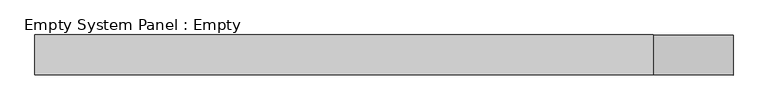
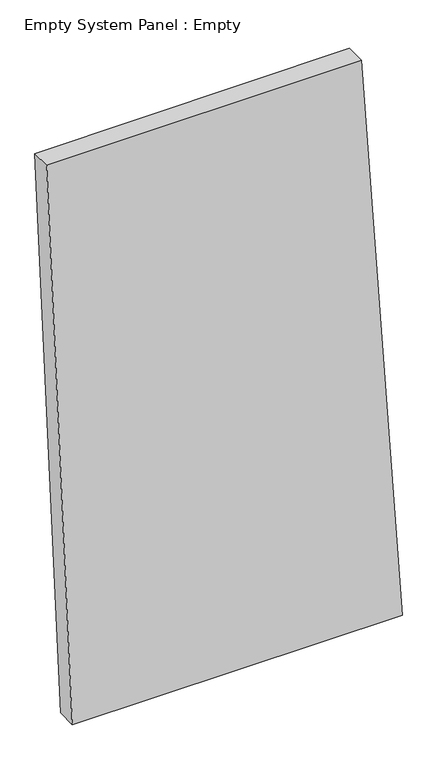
"""IFC4 building model written with IfcOpenShell, lengths in millimetres: plate geometry, Empty System Panel : Empty."""

from ifc_helpers import new_model, si_unit, frame, origin, place, context, project, spatial, polyline, outline, extrude, source, transform, mapped, element, save


def empty_system_panel_empty_8a625962(model_context):
    return source(origin(), model_context, "Body", "SweptSolid", [
        extrude(outline(polyline([(0.0, -759.7564112), (0.0, 887.5763516), (2999.0064892, 684.2158251), (2994.3040158, -887.5763516), (0.0, -759.7564112)])), frame((0.0, -50.8, 0.0), z_axis=(0.0, 1.0, 0.0), x_axis=(0.0, 0.0, 1.0)), (0.0, 0.0, 1.0), 101.6),
    ])


if __name__ == "__main__":
    model = new_model("IFC4")
    model_context = context("Model", 3, world=origin())
    ifc_project = project(units=[si_unit("LENGTHUNIT", "METRE", prefix="MILLI")], contexts=[model_context])
    site = spatial("IfcSite", under=ifc_project)
    building = spatial("IfcBuilding", under=site)
    placement = place(None, origin())
    empty_system_panel_empty_shape = empty_system_panel_empty_8a625962(model_context)
    element("IfcPlate", 1, ObjectType="Empty System Panel : Empty", at=placement, inside=building, context=model_context, shape_type="MappedRepresentation", body=[
        mapped(empty_system_panel_empty_shape, transform((0.0, 0.0, 0.0), x_axis=(1.0, 0.0, 0.0), y_axis=(0.0, 1.0, 0.0), z_axis=(0.0, 0.0, 1.0))),
    ])
    save(model, "model.ifc")
